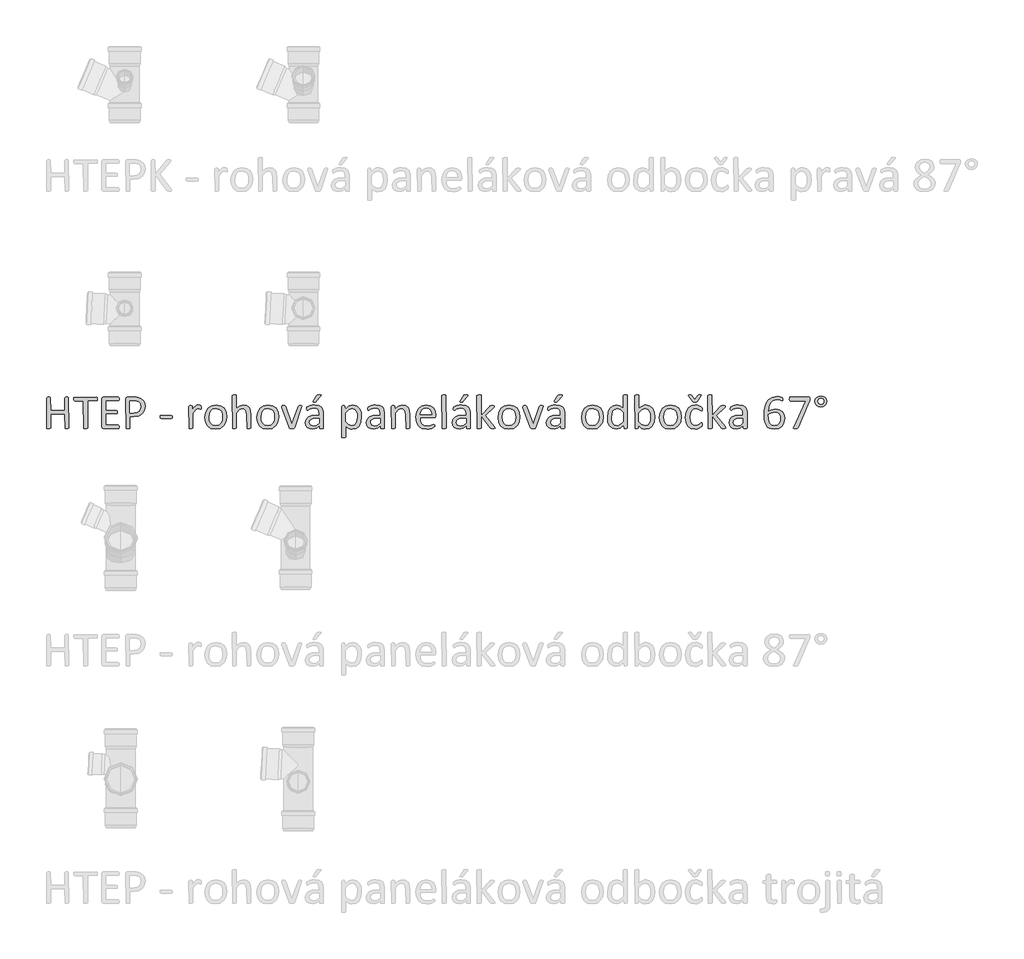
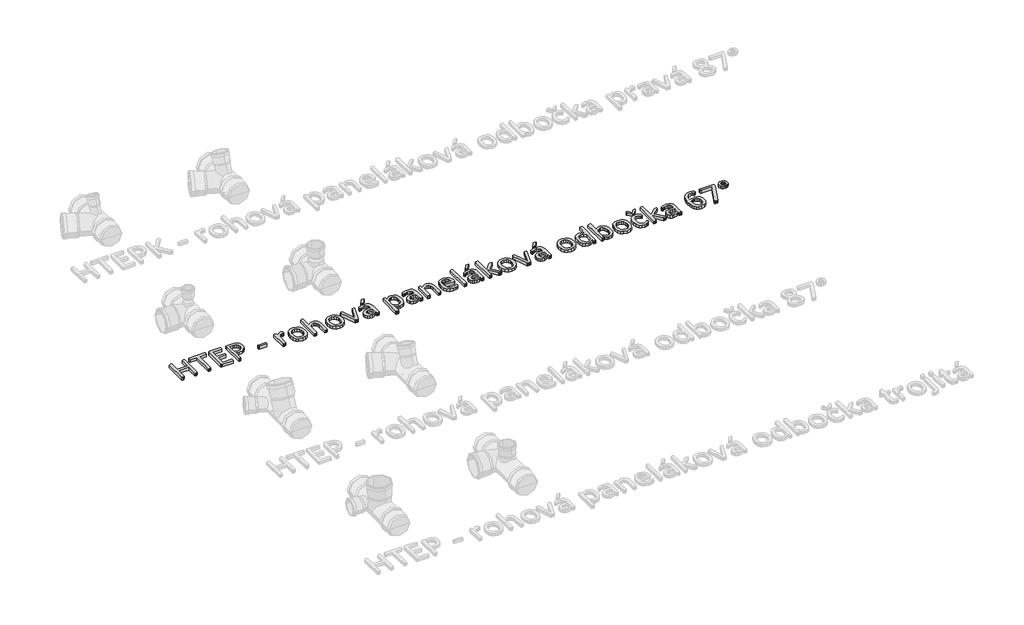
# One storey, part 11 of 26: 1 proxy.
"""IFC4 building model written with IfcOpenShell, lengths in millimetres."""

from ifc_helpers import new_model, si_unit, origin, origin_with_axes, place, context, project, spatial, polyline, outline, extrude, element, save

model = new_model("IFC4")

# Units and contexts
model_context = context("Model", 3, world=origin())
ifc_project = project(units=[si_unit("LENGTHUNIT", "METRE", prefix="MILLI")], contexts=[model_context])

# Site, building, storey
site = spatial("IfcSite", under=ifc_project)
building = spatial("IfcBuilding", under=site)
storey = spatial("IfcBuildingStorey", under=building, Name="Podlaží 1", Elevation=0.0)

# Proxy
placement = place(None, origin())
element("IfcBuildingElementProxy", 1, Name="120mm Arial", ObjectType="120mm Arial", at=placement, inside=storey, context=model_context, shape_type="SweptSolid", body=[
    extrude(outline(polyline([(-20465.0657483, 2418.0506997), (-20469.2817655, 2415.3184311), (-20473.1358927, 2415.0832026), (-20477.1166815, 2415.3184311), (-20479.5775327, 2415.8612659), (-20481.2784151, 2470.6694889), (-20534.5486061, 2470.6694889), (-20534.5486061, 2418.0145107), (-20538.7465288, 2415.3184311), (-20542.6549395, 2415.0832026), (-20546.5271613, 2415.3184311), (-20549.0603905, 2415.8793604), (-20550.7612729, 2532.5526591), (-20546.5271613, 2535.2849277), (-20542.6549395, 2535.5201562), (-20538.7465288, 2535.2849277), (-20536.2494886, 2534.7239984), (-20534.5486061, 2484.5660604), (-20481.2784151, 2484.5660604), (-20481.2784151, 2532.5526591), (-20477.1166815, 2535.2849277), (-20473.1358927, 2535.5201562), (-20469.2817655, 2535.2849277), (-20466.7666308, 2534.7239984), (-20465.0657483, 2418.0506997)])), origin_with_axes(), (0.0, 0.0, 1.0), 15.0),
    extrude(outline(polyline([(-20356.2092711, 2528.4633034), (-20356.390216, 2525.3329559), (-20356.9873343, 2523.1978056), (-20393.2667952, 2521.6235846), (-20393.2667952, 2418.0506997), (-20397.4647179, 2415.3184311), (-20401.3731287, 2415.0832026), (-20405.2453504, 2415.3184311), (-20407.7785796, 2415.8793604), (-20409.4794621, 2521.6235846), (-20443.3885442, 2521.6235846), (-20446.3017578, 2525.3329559), (-20446.5369862, 2528.4633034), (-20446.3017578, 2531.6660289), (-20445.686545, 2533.9097462), (-20359.3939021, 2535.5201562), (-20357.0054288, 2533.9097462), (-20356.390216, 2531.6660289), (-20356.2092711, 2528.4633034)])), origin_with_axes(), (0.0, 0.0, 1.0), 15.0),
    extrude(outline(polyline([(-20272.8298417, 2421.9952994), (-20273.0107867, 2418.9192354), (-20273.6621885, 2416.7298016), (-20274.7478581, 2415.463187), (-20334.0254212, 2415.0832026), (-20338.0785879, 2416.5307622), (-20339.9966043, 2421.5972206), (-20339.9966043, 2529.0061382), (-20338.0604934, 2534.0725966), (-20333.9530432, 2535.5201562), (-20276.0506617, 2535.5201562), (-20273.680283, 2533.8735572), (-20273.0650701, 2531.6841234), (-20272.8298417, 2528.4271144), (-20273.0650701, 2525.3691449), (-20273.680283, 2523.2159001), (-20323.7839374, 2521.6235846), (-20323.7839374, 2484.5660604), (-20282.9627585, 2484.5660604), (-20280.5742852, 2482.865178), (-20279.9590724, 2480.6757442), (-20279.7781275, 2477.3644517), (-20279.9590724, 2474.2702932), (-20280.5742852, 2472.1713319), (-20323.7839374, 2470.6694889), (-20323.7839374, 2428.9797742), (-20276.0868507, 2428.9797742), (-20273.6621885, 2427.3874587), (-20273.0107867, 2425.2342139), (-20272.8298417, 2421.9952994)])), origin_with_axes(), (0.0, 0.0, 1.0), 15.0),
    extrude(outline(polyline([(-20173.2377455, 2500.4892153), (-20176.2052426, 2484.3127375), (-20184.7096549, 2472.0265759), (-20198.2805255, 2464.1735655), (-20217.4606894, 2461.4051078), (-20231.140127, 2461.4051078), (-20231.140127, 2418.0506997), (-20232.8771985, 2415.8793604), (-20235.3380497, 2415.3184311), (-20239.2464605, 2415.0832026), (-20243.1548712, 2415.3184311), (-20245.6519114, 2415.8793604), (-20247.3527939, 2528.6804373), (-20245.3985885, 2533.9459352), (-20241.0197209, 2535.5201562), (-20215.1807831, 2535.5201562), (-20207.6896625, 2535.1944553), (-20199.2033447, 2533.8011792), (-20189.2151839, 2529.838485), (-20180.6022047, 2522.6911598), (-20175.1557619, 2512.8477549), (-20173.2377455, 2500.4892153)]), holes=[polyline([(-20189.4504124, 2499.2226008), (-20192.2369645, 2511.0021165), (-20199.1309668, 2518.0408747), (-20207.6172846, 2520.9902773), (-20216.1578858, 2521.6235846), (-20231.140127, 2521.6235846), (-20231.140127, 2475.3016794), (-20216.5197757, 2475.3016794), (-20204.3059921, 2477.0930343), (-20196.1453752, 2482.0509257), (-20191.1512948, 2489.6325188), (-20189.4504124, 2499.2226008)])]), origin_with_axes(), (0.0, 0.0, 1.0), 15.0),
    extrude(outline(polyline([(-20069.0134588, 2460.2832492), (-20069.8639001, 2455.7234367), (-20072.3428458, 2454.4568221), (-20111.9335991, 2454.4568221), (-20114.4849228, 2455.7596256), (-20115.335364, 2460.2832492), (-20114.4849228, 2464.7706838), (-20111.9335991, 2466.0372984), (-20072.3428458, 2466.0372984), (-20069.2486873, 2462.9974233), (-20069.0134588, 2460.2832492)])), origin_with_axes(), (0.0, 0.0, 1.0), 15.0),
    extrude(outline(polyline([(-19957.8408864, 2496.1465367), (-19957.9313588, 2492.8533388), (-19958.2932487, 2490.7181885), (-19961.8397696, 2489.5058574), (-19964.1739593, 2490.3382041), (-19967.0871729, 2491.1343618), (-19970.5794103, 2491.5143462), (-19974.9944669, 2490.519149), (-19979.5361849, 2487.2621401), (-19984.5121708, 2481.254768), (-19990.26622, 2472.0808594), (-19990.26622, 2417.9059437), (-19994.3917647, 2415.2641476), (-19998.4087424, 2415.0832026), (-20002.3533421, 2415.2641476), (-20004.8503823, 2415.8069824), (-20006.4788868, 2500.2720814), (-20002.751421, 2502.9500666), (-19999.0963332, 2503.0948225), (-19995.5136233, 2502.9500666), (-19993.306095, 2502.4072317), (-19991.8223465, 2488.2573373), (-19985.5616515, 2496.8341275), (-19980.0066418, 2502.0634363), (-19974.8316164, 2504.687138), (-19969.6384966, 2505.4109178), (-19966.9967004, 2505.2842563), (-19963.8844474, 2504.795705), (-19960.9531394, 2503.9814527), (-19959.107501, 2503.0948225), (-19957.8770754, 2499.4035457), (-19957.8408864, 2496.1465367)])), origin_with_axes(), (0.0, 0.0, 1.0), 15.0),
    extrude(outline(polyline([(-19860.5648854, 2459.9937373), (-19863.2428706, 2441.0126129), (-19871.2587315, 2426.0665606), (-19884.6124683, 2416.2774393), (-19903.1955138, 2412.7671074), (-19921.1090631, 2415.8612659), (-19933.847587, 2424.8542295), (-19941.4472746, 2439.1850689), (-19943.9443148, 2458.2928548), (-19941.3025186, 2477.2739793), (-19933.3409412, 2492.201937), (-19920.0414879, 2501.9367749), (-19901.4222534, 2505.4109178), (-19883.4906096, 2502.3167593), (-19870.7520857, 2493.3237956), (-19863.1162091, 2478.9929562), (-19860.5648854, 2459.9937373)]), holes=[polyline([(-19876.7775523, 2458.9080676), (-19878.0260724, 2471.4837411), (-19882.1335226, 2481.8699808), (-19889.8598716, 2488.9268335), (-19902.0374662, 2491.5143462), (-19913.599848, 2489.1439675), (-19921.5614255, 2482.4490046), (-19926.2117105, 2472.2075209), (-19927.731648, 2459.2699575), (-19926.4831279, 2446.6219061), (-19922.3394887, 2436.2718554), (-19914.5588562, 2429.2511916), (-19902.3993561, 2426.6636789), (-19890.8731633, 2429.0340577), (-19882.8573023, 2435.6747371), (-19878.2432063, 2445.8800318), (-19876.7775523, 2458.9080676)])]), origin_with_axes(), (0.0, 0.0, 1.0), 15.0),
    extrude(outline(polyline([(-19767.921075, 2417.9421327), (-19772.0466197, 2415.2641476), (-19775.9912195, 2415.0832026), (-19780.0081972, 2415.2641476), (-19782.4509539, 2415.8069824), (-19784.1337419, 2466.2906213), (-19785.201317, 2477.6539636), (-19788.2954755, 2485.0908008), (-19793.5609734, 2489.8677472), (-19801.0339995, 2491.5143462), (-19812.0173575, 2487.479274), (-19823.5073613, 2475.6273803), (-19823.5073613, 2417.9421327), (-19827.632906, 2415.2641476), (-19831.6498837, 2415.0832026), (-19835.5944834, 2415.2641476), (-19838.0915236, 2415.8250769), (-19839.7200281, 2541.8170401), (-19835.5944834, 2544.6035923), (-19831.6498837, 2544.7845372), (-19827.632906, 2544.6035923), (-19825.1901492, 2544.0426629), (-19823.9054402, 2543.1017492), (-19823.5073613, 2491.7314801), (-19810.4793254, 2502.0453419), (-19797.2703447, 2505.4109178), (-19783.4461511, 2502.5881767), (-19774.3808095, 2495.0427726), (-19769.4229181, 2483.9870366), (-19767.921075, 2468.6790945), (-19767.921075, 2417.9421327)])), origin_with_axes(), (0.0, 0.0, 1.0), 15.0),
    extrude(outline(polyline([(-19661.3806931, 2459.9937373), (-19664.0586782, 2441.0126129), (-19672.0745392, 2426.0665606), (-19685.4282759, 2416.2774393), (-19704.0113215, 2412.7671074), (-19721.9248707, 2415.8612659), (-19734.6633947, 2424.8542295), (-19742.2630822, 2439.1850689), (-19744.7601224, 2458.2928548), (-19742.1183263, 2477.2739793), (-19734.1567488, 2492.201937), (-19720.8572956, 2501.9367749), (-19702.238061, 2505.4109178), (-19684.3064173, 2502.3167593), (-19671.5678933, 2493.3237956), (-19663.9320168, 2478.9929562), (-19661.3806931, 2459.9937373)]), holes=[polyline([(-19677.5933599, 2458.9080676), (-19678.84188, 2471.4837411), (-19682.9493302, 2481.8699808), (-19690.6756792, 2488.9268335), (-19702.8532738, 2491.5143462), (-19714.4156556, 2489.1439675), (-19722.3772331, 2482.4490046), (-19727.0275181, 2472.2075209), (-19728.5474556, 2459.2699575), (-19727.2989355, 2446.6219061), (-19723.1552963, 2436.2718554), (-19715.3746638, 2429.2511916), (-19703.2151637, 2426.6636789), (-19691.6889709, 2429.0340577), (-19683.67311, 2435.6747371), (-19679.0590139, 2445.8800318), (-19677.5933599, 2458.9080676)])]), origin_with_axes(), (0.0, 0.0, 1.0), 15.0),
    extrude(outline(polyline([(-19572.0210334, 2501.502507), (-19600.5108145, 2418.3764006), (-19601.4879172, 2416.7298016), (-19603.2973666, 2415.7346044), (-19606.3553362, 2415.2279586), (-19611.0056212, 2415.0832026), (-19615.6197172, 2415.2641476), (-19618.6414977, 2415.8069824), (-19620.4509472, 2416.8202741), (-19621.4642388, 2418.3764006), (-19649.8364058, 2496.6169936), (-19650.4335241, 2498.5169155), (-19646.8327197, 2503.00435), (-19643.2500099, 2503.0948225), (-19638.9435203, 2502.9500666), (-19636.44648, 2502.4434207), (-19634.3475187, 2500.1635145), (-19610.7884872, 2432.2729721), (-19586.8675659, 2500.1635145), (-19584.895266, 2502.4434207), (-19582.4706038, 2502.9500666), (-19578.4355316, 2503.0948225), (-19574.9071052, 2503.00435), (-19572.0210334, 2501.502507)])), origin_with_axes(), (0.0, 0.0, 1.0), 15.0),
    extrude(outline(polyline([(-19515.5028807, 2541.4913392), (-19514.1638881, 2543.0836547), (-19512.3001552, 2544.0607574), (-19509.5678866, 2544.6035923), (-19505.6594758, 2544.7845372), (-19501.3167972, 2544.4769308), (-19499.000702, 2543.5903006), (-19499.2540249, 2540.6589925), (-19516.5523614, 2519.8503242), (-19517.9456374, 2518.4208591), (-19519.3751025, 2517.5704179), (-19521.4740638, 2517.1180555), (-19524.6948838, 2516.9913941), (-19528.0242707, 2517.2628115), (-19529.7613421, 2517.9865913), (-19529.3632633, 2520.8274268), (-19515.5028807, 2541.4913392)])), origin_with_axes(), (0.0, 0.0, 1.0), 15.0),
    extrude(outline(polyline([(-19489.9896438, 2417.8697547), (-19490.7858016, 2416.1869668), (-19492.9571409, 2415.35462), (-19497.0103076, 2415.0832026), (-19501.1177578, 2415.35462), (-19503.3433806, 2416.1869668), (-19504.0309714, 2417.8697547), (-19504.0309714, 2426.1932221), (-19516.2266605, 2416.5669512), (-19530.4851219, 2412.7671074), (-19542.4455826, 2414.4860843), (-19551.5471132, 2419.4620702), (-19557.3916348, 2427.4598367), (-19559.4725016, 2438.2441552), (-19556.5954771, 2450.5122223), (-19548.3443877, 2459.1613906), (-19535.1896904, 2464.3183214), (-19517.67422, 2466.0372984), (-19506.2023107, 2466.0372984), (-19506.2023107, 2472.9493951), (-19507.2156023, 2481.9966423), (-19510.4726113, 2488.5468492), (-19516.2809439, 2492.4914489), (-19525.0567736, 2493.8304415), (-19535.0992179, 2492.3828819), (-19542.8798504, 2489.198251), (-19548.4710492, 2486.01362), (-19551.8004361, 2484.5660604), (-19554.6593662, 2488.0944868), (-19554.8403111, 2490.7543775), (-19554.5146102, 2494.5542212), (-19552.9222947, 2497.2141119), (-19548.5796161, 2499.928286), (-19541.4865744, 2502.6062712), (-19532.7107447, 2504.61476), (-19523.1025683, 2505.4109178), (-19507.7222482, 2503.3662399), (-19497.46267, 2497.3950568), (-19491.7629043, 2487.6421245), (-19489.9896438, 2474.0350648), (-19489.9896438, 2417.8697547)]), holes=[polyline([(-19506.2023107, 2454.4568221), (-19519.0855905, 2454.4568221), (-19529.8337201, 2453.3892469), (-19537.4153132, 2450.2408049), (-19541.8484643, 2445.2467245), (-19543.2598348, 2438.5336671), (-19539.2066681, 2428.1836164), (-19527.8433257, 2424.3475837), (-19516.8418733, 2427.4055532), (-19506.2023107, 2436.7604067), (-19506.2023107, 2454.4568221)])]), origin_with_axes(), (0.0, 0.0, 1.0), 15.0),
    extrude(outline(polyline([(-19344.0756425, 2460.3556272), (-19346.3917377, 2440.505967), (-19353.1952675, 2425.5599148), (-19364.3233815, 2416.0964943), (-19379.5046621, 2412.7671074), (-19386.2177195, 2413.5089816), (-19392.2612806, 2415.8612659), (-19398.1238967, 2419.8963381), (-19404.2941192, 2425.6141983), (-19404.2941192, 2383.3454598), (-19405.9769072, 2381.083648), (-19408.4196639, 2380.5227187), (-19412.4366416, 2380.3417737), (-19416.3812414, 2380.5227187), (-19418.8782816, 2381.083648), (-19420.1629907, 2382.0245617), (-19420.1629907, 2500.1997034), (-19416.7793202, 2502.9500666), (-19413.4137443, 2503.0948225), (-19410.0300739, 2502.9681611), (-19407.8225456, 2502.4977042), (-19406.2483246, 2489.8496527), (-19399.0648104, 2496.6893716), (-19392.0984301, 2501.5206015), (-19384.8968214, 2504.4338151), (-19377.1161889, 2505.4109178), (-19361.9168138, 2501.8463024), (-19351.67533, 2492.1114645), (-19345.9031864, 2477.7444361), (-19344.0756425, 2460.3556272)]), holes=[polyline([(-19360.2883093, 2458.5823667), (-19361.229223, 2470.8504338), (-19364.4681374, 2481.3814295), (-19370.63836, 2488.7458886), (-19380.2646309, 2491.5143462), (-19385.9463021, 2490.663905), (-19391.6098788, 2487.9497309), (-19397.6353453, 2483.0642174), (-19404.2941192, 2475.6273803), (-19404.2941192, 2442.080188), (-19392.6955484, 2430.6263732), (-19381.1693556, 2426.6636789), (-19371.5792737, 2429.4321366), (-19365.1014447, 2436.7965957), (-19361.4644514, 2447.0923629), (-19360.2883093, 2458.5823667)])]), origin_with_axes(), (0.0, 0.0, 1.0), 15.0),
    extrude(outline(polyline([(-19256.0640226, 2417.8697547), (-19256.8601803, 2416.1869668), (-19259.0315196, 2415.35462), (-19263.0846863, 2415.0832026), (-19267.1921365, 2415.35462), (-19269.4177593, 2416.1869668), (-19270.1053501, 2417.8697547), (-19270.1053501, 2426.1932221), (-19282.3010392, 2416.5669512), (-19296.5595006, 2412.7671074), (-19308.5199613, 2414.4860843), (-19317.6214919, 2419.4620702), (-19323.4660135, 2427.4598367), (-19325.5468804, 2438.2441552), (-19322.6698558, 2450.5122223), (-19314.4187664, 2459.1613906), (-19301.2640691, 2464.3183214), (-19283.7485987, 2466.0372984), (-19272.2766894, 2466.0372984), (-19272.2766894, 2472.9493951), (-19273.2899811, 2481.9966423), (-19276.54699, 2488.5468492), (-19282.3553227, 2492.4914489), (-19291.1311524, 2493.8304415), (-19301.1735967, 2492.3828819), (-19308.9542292, 2489.198251), (-19314.5454279, 2486.01362), (-19317.8748148, 2484.5660604), (-19320.7337449, 2488.0944868), (-19320.9146899, 2490.7543775), (-19320.588989, 2494.5542212), (-19318.9966735, 2497.2141119), (-19314.6539949, 2499.928286), (-19307.5609531, 2502.6062712), (-19298.7851234, 2504.61476), (-19289.176947, 2505.4109178), (-19273.7966269, 2503.3662399), (-19263.5370487, 2497.3950568), (-19257.837283, 2487.6421245), (-19256.0640226, 2474.0350648), (-19256.0640226, 2417.8697547)]), holes=[polyline([(-19272.2766894, 2454.4568221), (-19285.1599693, 2454.4568221), (-19295.9080988, 2453.3892469), (-19303.4896919, 2450.2408049), (-19307.922843, 2445.2467245), (-19309.3342136, 2438.5336671), (-19305.2810469, 2428.1836164), (-19293.9177045, 2424.3475837), (-19282.916252, 2427.4055532), (-19272.2766894, 2436.7604067), (-19272.2766894, 2454.4568221)])]), origin_with_axes(), (0.0, 0.0, 1.0), 15.0),
    extrude(outline(polyline([(-19158.7880217, 2417.9421327), (-19162.9135663, 2415.2641476), (-19166.8581661, 2415.0832026), (-19170.8751438, 2415.2641476), (-19173.3179005, 2415.8069824), (-19175.0006885, 2466.2906213), (-19176.0682636, 2477.6539636), (-19179.1624222, 2485.0908008), (-19184.42792, 2489.8677472), (-19191.9009461, 2491.5143462), (-19202.8843041, 2487.479274), (-19214.3743079, 2475.6273803), (-19214.3743079, 2417.9421327), (-19218.4998526, 2415.2641476), (-19222.5168303, 2415.0832026), (-19226.46143, 2415.2641476), (-19228.9584702, 2415.8069824), (-19230.5869747, 2500.2720814), (-19226.8595089, 2502.9500666), (-19223.2044211, 2503.0948225), (-19219.6217112, 2502.9500666), (-19217.4141829, 2502.4072317), (-19215.9304344, 2489.3791959), (-19202.0881463, 2501.5567905), (-19188.1734803, 2505.4109178), (-19174.3492867, 2502.5881767), (-19165.2658506, 2495.0427726), (-19160.2898647, 2483.9870366), (-19158.7880217, 2468.7514725), (-19158.7880217, 2417.9421327)])), origin_with_axes(), (0.0, 0.0, 1.0), 15.0),
    extrude(outline(polyline([(-19059.1959255, 2463.3955022), (-19060.9872804, 2458.2928548), (-19065.0947306, 2456.7729173), (-19119.4144022, 2456.7729173), (-19118.0573152, 2443.3829916), (-19113.5517861, 2433.1776969), (-19105.3368857, 2426.6274899), (-19092.9602517, 2424.3475837), (-19082.682579, 2425.4151588), (-19074.8657575, 2427.8217266), (-19069.4555037, 2430.2282943), (-19066.2527782, 2431.2958695), (-19063.9547775, 2428.4007504), (-19063.828116, 2425.7589542), (-19063.9185885, 2423.8228433), (-19068.369834, 2418.4306841), (-19074.7210015, 2415.9336439), (-19083.7682486, 2413.7442101), (-19094.7335121, 2412.7671074), (-19112.411833, 2415.6622265), (-19125.1684514, 2424.2752057), (-19132.9852729, 2438.6241396), (-19135.6270691, 2458.6547447), (-19132.8586114, 2478.1967985), (-19124.8789395, 2492.8895278), (-19112.2851715, 2502.1720033), (-19095.7468038, 2505.4109178), (-19079.0998691, 2502.2805703), (-19067.7908102, 2493.848536), (-19061.2767923, 2481.4176184), (-19059.1959255, 2466.1820543), (-19059.1959255, 2463.3955022)]), holes=[polyline([(-19075.4085923, 2468.3533936), (-19076.5802108, 2478.9793853), (-19080.6017121, 2487.0450061), (-19087.3735766, 2492.1340826), (-19096.7962845, 2493.8304415), (-19106.4406499, 2491.7314801), (-19113.3708412, 2486.1402814), (-19117.6954253, 2478.0158535), (-19119.4144022, 2468.3533936), (-19075.4085923, 2468.3533936)])]), origin_with_axes(), (0.0, 0.0, 1.0), 15.0),
    extrude(outline(polyline([(-19019.8223061, 2417.9421327), (-19023.9478507, 2415.2641476), (-19027.9648285, 2415.0832026), (-19031.9094282, 2415.2641476), (-19034.4064684, 2415.8250769), (-19036.0349729, 2541.8170401), (-19031.9094282, 2544.6035923), (-19027.9648285, 2544.7845372), (-19023.9478507, 2544.6035923), (-19021.505094, 2544.0426629), (-19019.8223061, 2417.9421327)])), origin_with_axes(), (0.0, 0.0, 1.0), 15.0),
    extrude(outline(polyline([(-18952.6917325, 2541.4913392), (-18951.3527399, 2543.0836547), (-18949.489007, 2544.0607574), (-18946.7567384, 2544.6035923), (-18942.8483277, 2544.7845372), (-18938.505649, 2544.4769308), (-18936.1895538, 2543.5903006), (-18936.4428767, 2540.6589925), (-18953.7412132, 2519.8503242), (-18955.1344892, 2518.4208591), (-18956.5639543, 2517.5704179), (-18958.6629156, 2517.1180555), (-18961.8837356, 2516.9913941), (-18965.2131225, 2517.2628115), (-18966.950194, 2517.9865913), (-18966.5521151, 2520.8274268), (-18952.6917325, 2541.4913392)])), origin_with_axes(), (0.0, 0.0, 1.0), 15.0),
    extrude(outline(polyline([(-18927.1784957, 2417.8697547), (-18927.9746534, 2416.1869668), (-18930.1459927, 2415.35462), (-18934.1991594, 2415.0832026), (-18938.3066096, 2415.35462), (-18940.5322324, 2416.1869668), (-18941.2198232, 2417.8697547), (-18941.2198232, 2426.1932221), (-18953.4155123, 2416.5669512), (-18967.6739737, 2412.7671074), (-18979.6344344, 2414.4860843), (-18988.735965, 2419.4620702), (-18994.5804866, 2427.4598367), (-18996.6613535, 2438.2441552), (-18993.7843289, 2450.5122223), (-18985.5332395, 2459.1613906), (-18972.3785422, 2464.3183214), (-18954.8630718, 2466.0372984), (-18943.3911625, 2466.0372984), (-18943.3911625, 2472.9493951), (-18944.4044542, 2481.9966423), (-18947.6614631, 2488.5468492), (-18953.4697958, 2492.4914489), (-18962.2456255, 2493.8304415), (-18972.2880697, 2492.3828819), (-18980.0687023, 2489.198251), (-18985.659901, 2486.01362), (-18988.9892879, 2484.5660604), (-18991.848218, 2488.0944868), (-18992.0291629, 2490.7543775), (-18991.703462, 2494.5542212), (-18990.1111466, 2497.2141119), (-18985.7684679, 2499.928286), (-18978.6754262, 2502.6062712), (-18969.8995965, 2504.61476), (-18960.2914201, 2505.4109178), (-18944.9111, 2503.3662399), (-18934.6515218, 2497.3950568), (-18928.9517561, 2487.6421245), (-18927.1784957, 2474.0350648), (-18927.1784957, 2417.8697547)]), holes=[polyline([(-18943.3911625, 2454.4568221), (-18956.2744424, 2454.4568221), (-18967.0225719, 2453.3892469), (-18974.604165, 2450.2408049), (-18979.0373161, 2445.2467245), (-18980.4486866, 2438.5336671), (-18976.3955199, 2428.1836164), (-18965.0321776, 2424.3475837), (-18954.0307251, 2427.4055532), (-18943.3911625, 2436.7604067), (-18943.3911625, 2454.4568221)])]), origin_with_axes(), (0.0, 0.0, 1.0), 15.0),
    extrude(outline(polyline([(-18832.21859, 2418.0145107), (-18836.2898512, 2415.2641476), (-18840.2887344, 2415.0832026), (-18844.4142791, 2415.2279586), (-18847.1646422, 2415.6803209), (-18848.9740916, 2416.5850457), (-18850.2407062, 2418.0145107), (-18885.488781, 2463.5764471), (-18885.488781, 2417.9059437), (-18889.6143257, 2415.2641476), (-18893.6313034, 2415.0832026), (-18897.5759031, 2415.2641476), (-18900.0729433, 2415.8250769), (-18901.7014478, 2541.8170401), (-18897.5759031, 2544.6035923), (-18893.6313034, 2544.7845372), (-18889.6143257, 2544.6035923), (-18887.1715689, 2544.0426629), (-18885.8868599, 2543.1017492), (-18885.488781, 2465.6754085), (-18853.2805813, 2499.9101915), (-18851.6701713, 2501.4120346), (-18849.6435879, 2502.4072317), (-18846.8570358, 2502.9500666), (-18842.9667196, 2503.0948225), (-18838.9859308, 2502.9500666), (-18836.3984182, 2502.4977042), (-18834.9689531, 2501.683452), (-18835.1679926, 2498.1550256), (-18837.2850484, 2495.6037019), (-18869.2761142, 2465.7839754), (-18834.4984963, 2422.3210003), (-18832.7433303, 2419.8058656), (-18832.21859, 2418.0145107)])), origin_with_axes(), (0.0, 0.0, 1.0), 15.0),
    extrude(outline(polyline([(-18737.2586843, 2459.9937373), (-18739.9366695, 2441.0126129), (-18747.9525304, 2426.0665606), (-18761.3062672, 2416.2774393), (-18779.8893127, 2412.7671074), (-18797.802862, 2415.8612659), (-18810.5413859, 2424.8542295), (-18818.1410735, 2439.1850689), (-18820.6381137, 2458.2928548), (-18817.9963175, 2477.2739793), (-18810.0347401, 2492.201937), (-18796.7352868, 2501.9367749), (-18778.1160523, 2505.4109178), (-18760.1844085, 2502.3167593), (-18747.4458846, 2493.3237956), (-18739.810008, 2478.9929562), (-18737.2586843, 2459.9937373)]), holes=[polyline([(-18753.4713512, 2458.9080676), (-18754.7198713, 2471.4837411), (-18758.8273214, 2481.8699808), (-18766.5536705, 2488.9268335), (-18778.7312651, 2491.5143462), (-18790.2936469, 2489.1439675), (-18798.2552243, 2482.4490046), (-18802.9055094, 2472.2075209), (-18804.4254469, 2459.2699575), (-18803.1769268, 2446.6219061), (-18799.0332876, 2436.2718554), (-18791.2526551, 2429.2511916), (-18779.093155, 2426.6636789), (-18767.5669622, 2429.0340577), (-18759.5511012, 2435.6747371), (-18754.9370052, 2445.8800318), (-18753.4713512, 2458.9080676)])]), origin_with_axes(), (0.0, 0.0, 1.0), 15.0),
    extrude(outline(polyline([(-18647.8990246, 2501.502507), (-18676.3888058, 2418.3764006), (-18677.3659085, 2416.7298016), (-18679.1753579, 2415.7346044), (-18682.2333274, 2415.2279586), (-18686.8836124, 2415.0832026), (-18691.4977085, 2415.2641476), (-18694.519489, 2415.8069824), (-18696.3289384, 2416.8202741), (-18697.3422301, 2418.3764006), (-18725.714397, 2496.6169936), (-18726.3115153, 2498.5169155), (-18722.710711, 2503.00435), (-18719.1280011, 2503.0948225), (-18714.8215115, 2502.9500666), (-18712.3244713, 2502.4434207), (-18710.22551, 2500.1635145), (-18686.6664785, 2432.2729721), (-18662.7455571, 2500.1635145), (-18660.7732573, 2502.4434207), (-18658.348595, 2502.9500666), (-18654.3135228, 2503.0948225), (-18650.7850965, 2503.00435), (-18647.8990246, 2501.502507)])), origin_with_axes(), (0.0, 0.0, 1.0), 15.0),
    extrude(outline(polyline([(-18565.8676351, 2417.8697547), (-18566.6637928, 2416.1869668), (-18568.8351321, 2415.35462), (-18572.8882989, 2415.0832026), (-18576.995749, 2415.35462), (-18579.2213718, 2416.1869668), (-18579.9089626, 2417.8697547), (-18579.9089626, 2426.1932221), (-18592.1046517, 2416.5669512), (-18606.3631132, 2412.7671074), (-18618.3235738, 2414.4860843), (-18627.4251044, 2419.4620702), (-18633.2696261, 2427.4598367), (-18635.3504929, 2438.2441552), (-18632.4734683, 2450.5122223), (-18624.222379, 2459.1613906), (-18611.0676817, 2464.3183214), (-18593.5522113, 2466.0372984), (-18582.0803019, 2466.0372984), (-18582.0803019, 2472.9493951), (-18583.0935936, 2481.9966423), (-18586.3506026, 2488.5468492), (-18592.1589352, 2492.4914489), (-18600.9347649, 2493.8304415), (-18610.9772092, 2492.3828819), (-18618.7578417, 2489.198251), (-18624.3490404, 2486.01362), (-18627.6784273, 2484.5660604), (-18630.5373574, 2488.0944868), (-18630.7183024, 2490.7543775), (-18630.3926015, 2494.5542212), (-18628.800286, 2497.2141119), (-18624.4576074, 2499.928286), (-18617.3645656, 2502.6062712), (-18608.5887359, 2504.61476), (-18598.9805595, 2505.4109178), (-18583.6002394, 2503.3662399), (-18573.3406612, 2497.3950568), (-18567.6408955, 2487.6421245), (-18565.8676351, 2474.0350648), (-18565.8676351, 2417.8697547)]), holes=[polyline([(-18582.0803019, 2454.4568221), (-18594.9635818, 2454.4568221), (-18605.7117114, 2453.3892469), (-18613.2933044, 2450.2408049), (-18617.7264555, 2445.2467245), (-18619.1378261, 2438.5336671), (-18615.0846594, 2428.1836164), (-18603.721317, 2424.3475837), (-18592.7198645, 2427.4055532), (-18582.0803019, 2436.7604067), (-18582.0803019, 2454.4568221)])]), origin_with_axes(), (0.0, 0.0, 1.0), 15.0),
    extrude(outline(polyline([(-18591.3808719, 2541.4913392), (-18590.0418794, 2543.0836547), (-18588.1781465, 2544.0607574), (-18585.4458778, 2544.6035923), (-18581.5374671, 2544.7845372), (-18577.1947885, 2544.4769308), (-18574.8786932, 2543.5903006), (-18575.1320161, 2540.6589925), (-18592.4303526, 2519.8503242), (-18593.8236287, 2518.4208591), (-18595.2530937, 2517.5704179), (-18597.352055, 2517.1180555), (-18600.572875, 2516.9913941), (-18603.9022619, 2517.2628115), (-18605.6393334, 2517.9865913), (-18605.2412545, 2520.8274268), (-18591.3808719, 2541.4913392)])), origin_with_axes(), (0.0, 0.0, 1.0), 15.0),
    extrude(outline(polyline([(-18417.6375385, 2459.9937373), (-18420.3155236, 2441.0126129), (-18428.3313845, 2426.0665606), (-18441.6851213, 2416.2774393), (-18460.2681668, 2412.7671074), (-18478.1817161, 2415.8612659), (-18490.92024, 2424.8542295), (-18498.5199276, 2439.1850689), (-18501.0169678, 2458.2928548), (-18498.3751717, 2477.2739793), (-18490.4135942, 2492.201937), (-18477.114141, 2501.9367749), (-18458.4949064, 2505.4109178), (-18440.5632626, 2502.3167593), (-18427.8247387, 2493.3237956), (-18420.1888621, 2478.9929562), (-18417.6375385, 2459.9937373)]), holes=[polyline([(-18433.8502053, 2458.9080676), (-18435.0987254, 2471.4837411), (-18439.2061756, 2481.8699808), (-18446.9325246, 2488.9268335), (-18459.1101192, 2491.5143462), (-18470.672501, 2489.1439675), (-18478.6340785, 2482.4490046), (-18483.2843635, 2472.2075209), (-18484.804301, 2459.2699575), (-18483.5557809, 2446.6219061), (-18479.4121417, 2436.2718554), (-18471.6315092, 2429.2511916), (-18459.4720091, 2426.6636789), (-18447.9458163, 2429.0340577), (-18439.9299553, 2435.6747371), (-18435.3158593, 2445.8800318), (-18433.8502053, 2458.9080676)])]), origin_with_axes(), (0.0, 0.0, 1.0), 15.0),
    extrude(outline(polyline([(-18325.319429, 2417.9783217), (-18328.7030994, 2415.2641476), (-18332.0143918, 2415.0832026), (-18335.4523457, 2415.2641476), (-18337.696063, 2415.7346044), (-18339.3607565, 2428.0388605), (-18352.8049657, 2416.8021796), (-18368.0586243, 2412.7671074), (-18383.4751334, 2416.3679117), (-18393.8070896, 2426.1027496), (-18399.5973277, 2440.542156), (-18401.4248716, 2458.0033429), (-18399.1449654, 2477.6358691), (-18392.4138135, 2492.5819214), (-18381.376172, 2502.0815308), (-18366.1406079, 2505.4109178), (-18352.9859106, 2502.1720033), (-18341.2063949, 2492.6723938), (-18341.2063949, 2541.7808512), (-18339.5417014, 2543.9883794), (-18337.0446612, 2544.5493088), (-18333.2086284, 2544.7845372), (-18329.1916507, 2544.5493088), (-18326.748894, 2543.9883794), (-18325.4279959, 2543.0655602), (-18325.319429, 2417.9783217)]), holes=[polyline([(-18341.2063949, 2476.1702151), (-18352.8230602, 2487.587841), (-18364.5121034, 2491.5143462), (-18374.1021854, 2488.7639831), (-18380.5076363, 2481.5080909), (-18384.0903462, 2471.3027962), (-18385.2122048, 2459.7404144), (-18384.2712911, 2447.5085363), (-18380.9961877, 2436.9051627), (-18374.8078706, 2429.4683255), (-18365.1273162, 2426.6636789), (-18359.445645, 2427.4779312), (-18353.8363518, 2430.1740108), (-18347.8470743, 2435.0595243), (-18341.2063949, 2442.4782669), (-18341.2063949, 2476.1702151)])]), origin_with_axes(), (0.0, 0.0, 1.0), 15.0),
    extrude(outline(polyline([(-18220.7694414, 2460.1746822), (-18223.0855366, 2440.4516835), (-18229.9071609, 2425.5056313), (-18240.9809914, 2416.0422108), (-18256.0175161, 2412.7671074), (-18263.2553138, 2413.5632651), (-18269.7693317, 2416.1507778), (-18276.1385937, 2420.6563069), (-18282.8697455, 2427.2065138), (-18282.8697455, 2417.7611878), (-18286.7600618, 2415.2641476), (-18290.1437322, 2415.0832026), (-18293.4731191, 2415.2641476), (-18295.7349309, 2415.7707934), (-18297.2005849, 2541.8170401), (-18293.0750403, 2544.6035923), (-18289.1304405, 2544.7845372), (-18285.1134628, 2544.6035923), (-18282.6707061, 2544.0426629), (-18281.385997, 2543.1017492), (-18280.9879181, 2491.5505352), (-18273.9491599, 2498.0102696), (-18267.2722915, 2502.2805703), (-18260.7401791, 2504.6690435), (-18253.8461768, 2505.4109178), (-18238.6287072, 2501.7558299), (-18228.3510344, 2491.9667086), (-18222.5788908, 2477.5815857), (-18220.7694414, 2460.1746822)]), holes=[polyline([(-18236.9821082, 2458.4014218), (-18237.9230219, 2470.7237724), (-18241.2162198, 2481.3090515), (-18247.4226313, 2488.7096996), (-18257.0669968, 2491.5143462), (-18262.712479, 2490.700094), (-18268.3760556, 2487.9859198), (-18274.3653332, 2483.1185009), (-18280.9879181, 2475.6273803), (-18280.9879181, 2442.00781), (-18269.2988749, 2430.5901842), (-18257.6822096, 2426.6636789), (-18248.1464111, 2429.4321366), (-18241.7047712, 2436.7423122), (-18238.1039668, 2446.947607), (-18236.9821082, 2458.4014218)])]), origin_with_axes(), (0.0, 0.0, 1.0), 15.0),
    extrude(outline(polyline([(-18118.8612499, 2459.9937373), (-18121.5392351, 2441.0126129), (-18129.555096, 2426.0665606), (-18142.9088327, 2416.2774393), (-18161.4918783, 2412.7671074), (-18179.4054276, 2415.8612659), (-18192.1439515, 2424.8542295), (-18199.7436391, 2439.1850689), (-18202.2406793, 2458.2928548), (-18199.5988831, 2477.2739793), (-18191.6373057, 2492.201937), (-18178.3378524, 2501.9367749), (-18159.7186179, 2505.4109178), (-18141.7869741, 2502.3167593), (-18129.0484502, 2493.3237956), (-18121.4125736, 2478.9929562), (-18118.8612499, 2459.9937373)]), holes=[polyline([(-18135.0739167, 2458.9080676), (-18136.3224368, 2471.4837411), (-18140.429887, 2481.8699808), (-18148.1562361, 2488.9268335), (-18160.3338307, 2491.5143462), (-18171.8962125, 2489.1439675), (-18179.8577899, 2482.4490046), (-18184.5080749, 2472.2075209), (-18186.0280125, 2459.2699575), (-18184.7794924, 2446.6219061), (-18180.6358532, 2436.2718554), (-18172.8552207, 2429.2511916), (-18160.6957205, 2426.6636789), (-18149.1695277, 2429.0340577), (-18141.1536668, 2435.6747371), (-18136.5395708, 2445.8800318), (-18135.0739167, 2458.9080676)])]), origin_with_axes(), (0.0, 0.0, 1.0), 15.0),
    extrude(outline(polyline([(-18055.1686303, 2542.1065521), (-18054.0105826, 2543.3912611), (-18050.7173847, 2544.6578757), (-18047.8222656, 2544.7845372), (-18044.0405163, 2544.4769308), (-18042.2310669, 2543.5903006), (-18043.588154, 2539.7904568), (-18058.5342062, 2519.3074893), (-18059.7103483, 2518.1494417), (-18061.3026638, 2517.4799454), (-18063.6187591, 2517.1180555), (-18066.9662405, 2516.9913941), (-18070.1146825, 2517.1180555), (-18072.3403053, 2517.5161344), (-18073.8783373, 2518.2399142), (-18089.9100592, 2539.7904568), (-18091.3033352, 2542.0160796), (-18089.4034133, 2544.4769308), (-18085.6397585, 2544.7845372), (-18082.5275055, 2544.6578757), (-18080.6456781, 2544.2055134), (-18078.3295829, 2542.1065521), (-18066.7491066, 2525.9300742), (-18055.1686303, 2542.1065521)])), origin_with_axes(), (0.0, 0.0, 1.0), 15.0),
    extrude(outline(polyline([(-18037.7979158, 2431.7301373), (-18037.8883883, 2429.1969081), (-18038.2140892, 2427.3874587), (-18040.2044835, 2423.7504654), (-18044.0947998, 2420.222039), (-18050.2650223, 2416.4764787), (-18057.7018595, 2413.7984935), (-18066.0253268, 2412.7671074), (-18081.7313478, 2415.7707934), (-18093.1851626, 2424.5466231), (-18100.2239209, 2438.6965176), (-18102.6485831, 2458.0395319), (-18099.681086, 2479.4815076), (-18091.5566581, 2494.1561424), (-18079.4152525, 2502.6424602), (-18064.2882554, 2505.4109178), (-18056.6523788, 2504.5966655), (-18049.848849, 2502.4615152), (-18044.3119337, 2499.4216402), (-18040.8016019, 2496.4722376), (-18039.2997588, 2494.5361267), (-18038.6121681, 2492.9980947), (-18038.2502782, 2491.0981728), (-18038.1598057, 2488.4382822), (-18038.9740579, 2483.6251467), (-18040.9463578, 2482.2499652), (-18044.0767053, 2483.6975247), (-18048.5460454, 2486.8821557), (-18055.1143468, 2490.0667867), (-18064.1796884, 2491.5143462), (-18073.701916, 2489.4153849), (-18080.6999616, 2483.1185009), (-18085.0019276, 2472.8227337), (-18086.4359163, 2458.7271227), (-18084.9521677, 2444.7219842), (-18080.5733001, 2434.6614454), (-18073.4621639, 2428.6359788), (-18063.8177985, 2426.6636789), (-18054.7886459, 2428.4912229), (-18048.057494, 2432.5082006), (-18043.2624531, 2436.4708948), (-18040.222578, 2438.2441552), (-18037.9245773, 2434.6795399), (-18037.7979158, 2431.7301373)])), origin_with_axes(), (0.0, 0.0, 1.0), 15.0),
    extrude(outline(polyline([(-17947.4702007, 2418.0145107), (-17951.5414619, 2415.2641476), (-17955.5403451, 2415.0832026), (-17959.6658898, 2415.2279586), (-17962.4162529, 2415.6803209), (-17964.2257023, 2416.5850457), (-17965.4923169, 2418.0145107), (-18000.7403917, 2463.5764471), (-18000.7403917, 2417.9059437), (-18004.8659363, 2415.2641476), (-18008.8829141, 2415.0832026), (-18012.8275138, 2415.2641476), (-18015.324554, 2415.8250769), (-18016.9530585, 2541.8170401), (-18012.8275138, 2544.6035923), (-18008.8829141, 2544.7845372), (-18004.8659363, 2544.6035923), (-18002.4231796, 2544.0426629), (-18001.1384705, 2543.1017492), (-18000.7403917, 2465.6754085), (-17968.5321919, 2499.9101915), (-17966.921782, 2501.4120346), (-17964.8951986, 2502.4072317), (-17962.1086465, 2502.9500666), (-17958.2183302, 2503.0948225), (-17954.2375415, 2502.9500666), (-17951.6500288, 2502.4977042), (-17950.2205638, 2501.683452), (-17950.4196032, 2498.1550256), (-17952.5366591, 2495.6037019), (-17984.5277248, 2465.7839754), (-17949.7501069, 2422.3210003), (-17947.994941, 2419.8058656), (-17947.4702007, 2418.0145107)])), origin_with_axes(), (0.0, 0.0, 1.0), 15.0),
    extrude(outline(polyline([(-17866.4068666, 2417.8697547), (-17867.2030243, 2416.1869668), (-17869.3743636, 2415.35462), (-17873.4275303, 2415.0832026), (-17877.5349805, 2415.35462), (-17879.7606033, 2416.1869668), (-17880.4481941, 2417.8697547), (-17880.4481941, 2426.1932221), (-17892.6438832, 2416.5669512), (-17906.9023446, 2412.7671074), (-17918.8628053, 2414.4860843), (-17927.9643359, 2419.4620702), (-17933.8088575, 2427.4598367), (-17935.8897244, 2438.2441552), (-17933.0126998, 2450.5122223), (-17924.7616104, 2459.1613906), (-17911.6069131, 2464.3183214), (-17894.0914427, 2466.0372984), (-17882.6195334, 2466.0372984), (-17882.6195334, 2472.9493951), (-17883.6328251, 2481.9966423), (-17886.889834, 2488.5468492), (-17892.6981667, 2492.4914489), (-17901.4739964, 2493.8304415), (-17911.5164407, 2492.3828819), (-17919.2970732, 2489.198251), (-17924.8882719, 2486.01362), (-17928.2176588, 2484.5660604), (-17931.0765889, 2488.0944868), (-17931.2575339, 2490.7543775), (-17930.931833, 2494.5542212), (-17929.3395175, 2497.2141119), (-17924.9968389, 2499.928286), (-17917.9037971, 2502.6062712), (-17909.1279674, 2504.61476), (-17899.519791, 2505.4109178), (-17884.1394709, 2503.3662399), (-17873.8798927, 2497.3950568), (-17868.180127, 2487.6421245), (-17866.4068666, 2474.0350648), (-17866.4068666, 2417.8697547)]), holes=[polyline([(-17882.6195334, 2454.4568221), (-17895.5028133, 2454.4568221), (-17906.2509428, 2453.3892469), (-17913.8325359, 2450.2408049), (-17918.265687, 2445.2467245), (-17919.6770576, 2438.5336671), (-17915.6238908, 2428.1836164), (-17904.2605485, 2424.3475837), (-17893.259096, 2427.4055532), (-17882.6195334, 2436.7604067), (-17882.6195334, 2454.4568221)])]), origin_with_axes(), (0.0, 0.0, 1.0), 15.0),
    extrude(outline(polyline([(-17722.8089605, 2453.9501762), (-17725.2155282, 2438.4793837), (-17732.6342708, 2425.3246864), (-17745.3366058, 2416.2050613), (-17763.4853835, 2412.7671074), (-17776.7305532, 2414.6489348), (-17786.7368085, 2420.0049051), (-17793.8117558, 2428.5455063), (-17798.3534738, 2440.1078881), (-17800.814325, 2454.3120661), (-17801.5561993, 2470.8504338), (-17800.7419471, 2486.6288328), (-17797.810639, 2502.0453419), (-17792.0927788, 2515.9961969), (-17783.0636262, 2527.3595393), (-17770.0536849, 2535.0135103), (-17752.411553, 2537.8362514), (-17745.5718342, 2537.456267), (-17739.1663832, 2536.4429754), (-17734.2265863, 2535.0496993), (-17731.5847902, 2533.8192737), (-17729.7572462, 2528.2099805), (-17729.8115297, 2525.4958064), (-17730.1734196, 2523.5596955), (-17735.0227441, 2522.7454432), (-17739.2025722, 2524.1749083), (-17745.1556608, 2525.6043733), (-17753.2800887, 2526.2557751), (-17767.8280621, 2522.5644983), (-17777.7800339, 2512.6487155), (-17783.4978941, 2498.2093091), (-17785.6330444, 2481.3814295), (-17780.2227906, 2484.1860761), (-17773.6363947, 2486.6831163), (-17766.1090851, 2488.4925657), (-17757.5865783, 2489.198251), (-17741.2291556, 2486.5202658), (-17730.444837, 2479.1015232), (-17724.5641264, 2467.9191258), (-17722.8089605, 2453.9501762)]), holes=[polyline([(-17739.0216273, 2453.4797194), (-17740.0892024, 2463.4497857), (-17743.6357233, 2471.0856622), (-17750.2764027, 2475.9168922), (-17760.5178864, 2477.6177747), (-17767.3395107, 2477.0025619), (-17773.9440011, 2475.3016794), (-17780.0418457, 2472.7503557), (-17785.3435325, 2469.5838192), (-17783.823595, 2449.1189463), (-17779.3904439, 2435.9099655), (-17772.1526462, 2428.7988293), (-17762.0016349, 2426.6636789), (-17751.7601512, 2428.9435852), (-17744.5585425, 2435.0595243), (-17740.3606198, 2443.6725035), (-17739.0216273, 2453.4797194)])]), origin_with_axes(), (0.0, 0.0, 1.0), 15.0),
    extrude(outline(polyline([(-17625.5329595, 2528.7166263), (-17625.6777155, 2525.7129403), (-17626.0576999, 2523.1254276), (-17626.7091017, 2520.7369544), (-17627.6681099, 2518.2941977), (-17671.167274, 2418.7021015), (-17672.3253216, 2416.8926521), (-17674.098582, 2415.7888879), (-17676.8489451, 2415.2279586), (-17680.9383008, 2415.0832026), (-17685.8961922, 2415.35462), (-17688.4656104, 2416.2412503), (-17689.1712957, 2417.7249988), (-17688.5017994, 2419.8239601), (-17642.795107, 2521.6235846), (-17700.7336775, 2521.6235846), (-17703.3935682, 2523.469223), (-17704.2801984, 2528.6080594), (-17704.0449699, 2531.6660289), (-17703.3392847, 2533.8192737), (-17702.217426, 2535.1039828), (-17630.382284, 2535.5201562), (-17628.1023777, 2535.2487387), (-17626.6005347, 2534.1449746), (-17625.8043769, 2532.0279188), (-17625.5329595, 2528.7166263)])), origin_with_axes(), (0.0, 0.0, 1.0), 15.0),
    extrude(outline(polyline([(-17560.6822923, 2519.6693792), (-17562.4374582, 2511.4001954), (-17567.3772551, 2504.61476), (-17574.8683757, 2500.073042), (-17584.2051347, 2498.462632), (-17593.3971378, 2499.9463805), (-17600.5625575, 2504.1262087), (-17605.303315, 2510.5859431), (-17607.0041975, 2518.9455995), (-17605.194748, 2527.4500117), (-17600.2187621, 2534.1449746), (-17592.781925, 2538.5419367), (-17583.481355, 2540.1523467), (-17574.3436354, 2538.6324092), (-17567.1239322, 2534.452581), (-17562.3831747, 2528.0290355), (-17560.6822923, 2519.6693792)]), holes=[polyline([(-17572.2627686, 2519.3436783), (-17573.1313043, 2523.9396799), (-17575.5559665, 2527.6128622), (-17579.2653378, 2530.0194299), (-17583.9518118, 2530.8879656), (-17588.4754354, 2530.0194299), (-17592.1305232, 2527.6128622), (-17594.5551854, 2523.9939633), (-17595.4237212, 2519.5246233), (-17594.5551854, 2514.7114878), (-17592.0762397, 2511.0021165), (-17588.2763959, 2508.5955488), (-17583.5537329, 2507.727013), (-17579.1205819, 2508.6317377), (-17575.5197775, 2511.1287779), (-17573.1313043, 2514.8019603), (-17572.2627686, 2519.3436783)])]), origin_with_axes(), (0.0, 0.0, 1.0), 15.0),
])

save(model, "model.ifc")
